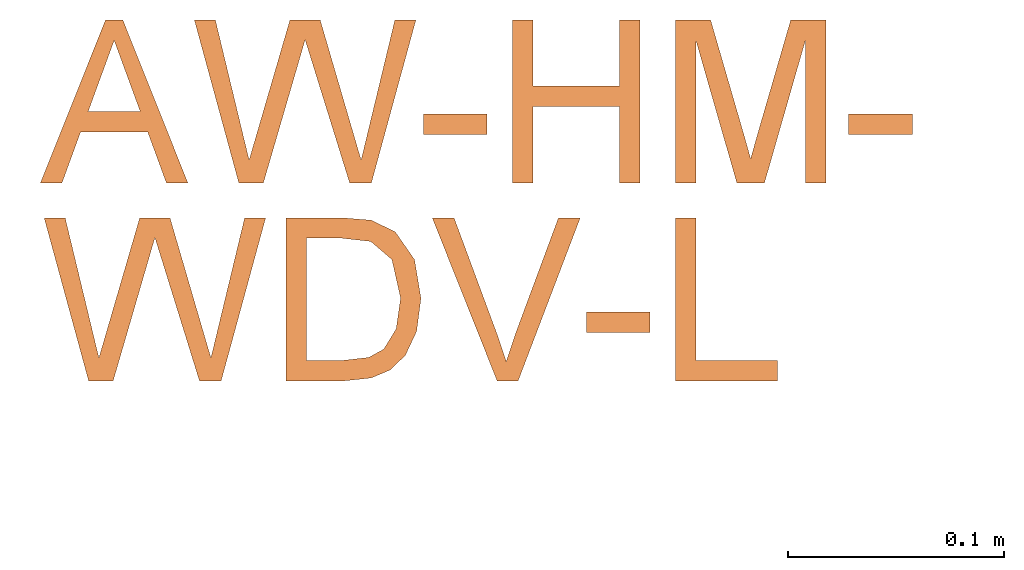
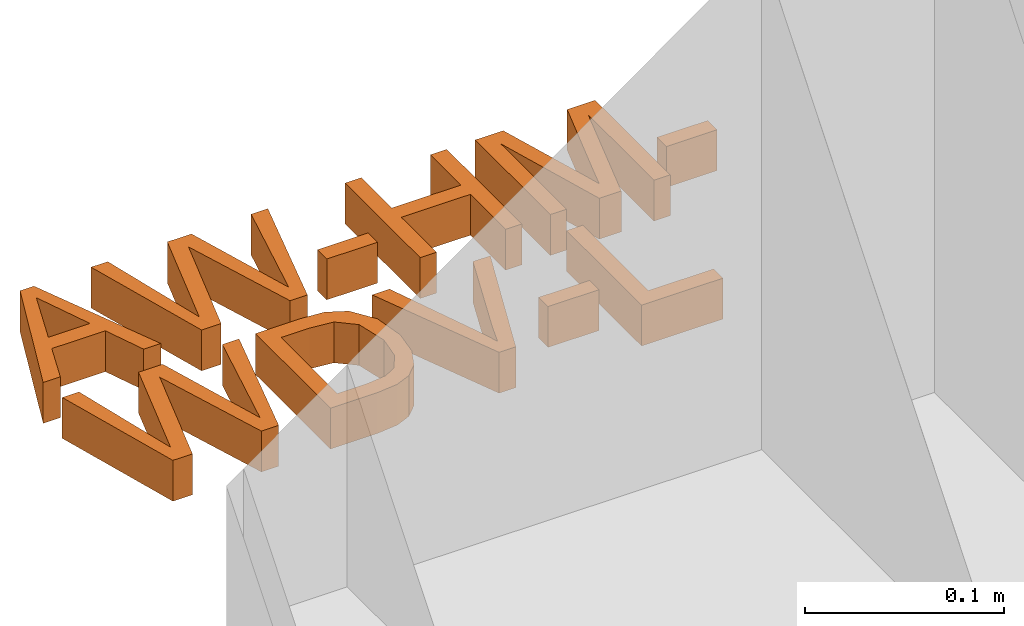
# Not in any storey, part 2 of 2: 1 proxy.
"""IFC4 model written with IfcOpenShell, lengths in metres."""

import ifcopenshell
import ifcopenshell.guid

model = None  # the IFC model being written
_history = None  # IfcOwnerHistory: only IFC2X3 demands one
_inside = {}  # id of a spatial element -> (the spatial element, [elements in it])
_under = {}  # id of a project, library or spatial element -> (it, [spatial elements below it])
_declared = {}  # id of a project -> (the project, [libraries it declares])
_typed = {}  # id of a type object -> (the type object, [elements of that type])
_made_of = {}  # id of a material, layer set ... -> (it, [elements and type objects made of it])


def new_model(schema):
    """Start an empty IFC model of exactly this schema.

    Asked for "IFC4X3", IfcOpenShell would pick the latest addendum, in which some entities
    have other attributes; the version numbers below select the first issue.
    IFC2X3 requires an IfcOwnerHistory on every rooted entity: one is made here for all.
    """
    global model, _history
    if schema == "IFC4X3":
        model = ifcopenshell.file(schema_version=(4, 3, 0, 0))
    else:
        model = ifcopenshell.file(schema=schema)
    _inside.clear()
    _under.clear()
    _declared.clear()
    _typed.clear()
    _made_of.clear()
    _history = None
    if model.schema == "IFC2X3":
        org = make("IfcOrganization", Name="unknown")
        user = make(
            "IfcPersonAndOrganization",
            ThePerson=make("IfcPerson", FamilyName="unknown"),
            TheOrganization=org,
        )
        app = make(
            "IfcApplication",
            ApplicationDeveloper=org,
            Version="unknown",
            ApplicationFullName="unknown",
            ApplicationIdentifier="unknown",
        )
        _history = make(
            "IfcOwnerHistory",
            OwningUser=user,
            OwningApplication=app,
            ChangeAction="ADDED",
            CreationDate=0,
        )
    return model


def make(cls, **values):
    """One entity of the class cls with the attributes given. An attribute that is None is left unset."""
    return model.create_entity(
        cls, **{name: value for name, value in values.items() if value is not None}
    )


def entity(cls, *values):
    """Any entity or typed value of the class cls, its attributes in the order of the schema. None: left unset."""
    e = model.create_entity(cls)
    for i, value in enumerate(values):
        if value is not None:
            e[i] = value
    return e


def rooted(cls, **values):
    """An entity with a GlobalId (a new one), such as an element, a storey or a relation."""
    return make(cls, GlobalId=ifcopenshell.guid.new(), OwnerHistory=_history, **values)


def si_unit(unit_type, name, prefix=None):
    """IfcSIUnit, for example si_unit("LENGTHUNIT", "METRE", prefix="MILLI")."""
    return make("IfcSIUnit", UnitType=unit_type, Prefix=prefix, Name=name)


def converted_unit(unit_type, name, factor, base, dimensions=None, offset=None):
    """IfcConversionBasedUnit, such as the inch: factor (a typed value) times the base unit."""
    return make(
        "IfcConversionBasedUnit"
        if offset is None
        else "IfcConversionBasedUnitWithOffset",
        ConversionOffset=offset,
        Dimensions=None
        if dimensions is None
        else entity("IfcDimensionalExponents", *dimensions),
        UnitType=unit_type,
        Name=name,
        ConversionFactor=make(
            "IfcMeasureWithUnit", ValueComponent=factor, UnitComponent=base
        ),
    )


def derived_unit(unit_type, elements):
    """IfcDerivedUnit: a product of units, each with its exponent."""
    return make(
        "IfcDerivedUnit",
        Elements=[
            make("IfcDerivedUnitElement", Unit=unit, Exponent=power)
            for unit, power in elements
        ],
        UnitType=unit_type,
    )


def assignment(units):
    """IfcUnitAssignment: the units of a project."""
    return None if units is None else make("IfcUnitAssignment", Units=units)


def point(xyz):
    """IfcCartesianPoint."""
    return None if xyz is None else make("IfcCartesianPoint", Coordinates=xyz)


def direction(xyz):
    """IfcDirection."""
    return None if xyz is None else make("IfcDirection", DirectionRatios=xyz)


def frame(location, z_axis=None, x_axis=None):
    """IfcAxis2Placement3D, a coordinate frame: its origin and axes. An axis left out is left unset."""
    return make(
        "IfcAxis2Placement3D",
        Location=point(location),
        Axis=direction(z_axis),
        RefDirection=direction(x_axis),
    )


def origin():
    """The frame at (0, 0, 0) with its axes left unset."""
    return frame((0.0, 0.0, 0.0))


def place(relative_to, where):
    """IfcLocalPlacement: puts the frame where relative to a parent placement (None: the world)."""
    return make(
        "IfcLocalPlacement", PlacementRelTo=relative_to, RelativePlacement=where
    )


def context(
    kind, dimensions, precision=None, world=None, true_north=None, identifier=None
):
    """IfcGeometricRepresentationContext, for example the 3D "Model" context."""
    return make(
        "IfcGeometricRepresentationContext",
        ContextIdentifier=identifier,
        ContextType=kind,
        CoordinateSpaceDimension=dimensions,
        Precision=precision,
        WorldCoordinateSystem=world,
        TrueNorth=true_north,
    )


def subcontext(parent, identifier, kind, view, scale=None):
    """IfcGeometricRepresentationSubContext, for example "Body" below "Model"."""
    return make(
        "IfcGeometricRepresentationSubContext",
        ContextIdentifier=identifier,
        ContextType=kind,
        ParentContext=parent,
        TargetScale=scale,
        TargetView=view,
    )


def project(units=None, contexts=None):
    """IfcProject with its units and contexts."""
    return rooted(
        "IfcProject",
        Name="project",
        RepresentationContexts=contexts,
        UnitsInContext=assignment(units),
    )


def spatial(cls, under=None, at=None, **own):
    """A site, building, storey or space (cls), placed at a placement, below another one or the project."""
    s = rooted(cls, ObjectPlacement=at, **own)
    if under is not None:
        _under.setdefault(under.id(), (under, []))[1].append(s)
    return s


def point_list(points):
    """IfcCartesianPointList2D or 3D."""
    cls = (
        "IfcCartesianPointList2D" if len(points[0]) == 2 else "IfcCartesianPointList3D"
    )
    return make(cls, CoordList=points)


def indexed_curve(points, segments=None, self_intersect=None):
    """IfcIndexedPolyCurve: lines and arcs through numbered points (the first is 1)."""
    return make(
        "IfcIndexedPolyCurve",
        Points=point_list(points),
        Segments=segments,
        SelfIntersect=self_intersect,
    )


def outline(outer, holes=None, kind="AREA"):
    """IfcArbitraryClosedProfileDef: a profile drawn as a closed curve; with holes, ...WithVoids."""
    if holes is None:
        return make("IfcArbitraryClosedProfileDef", ProfileType=kind, OuterCurve=outer)
    return make(
        "IfcArbitraryProfileDefWithVoids",
        ProfileType=kind,
        OuterCurve=outer,
        InnerCurves=holes,
    )


def extrude(swept, where, along, depth):
    """IfcExtrudedAreaSolid: the profile swept, set in the frame where, extruded along a direction by depth."""
    return make(
        "IfcExtrudedAreaSolid",
        SweptArea=swept,
        Position=where,
        ExtrudedDirection=direction(along),
        Depth=depth,
    )


def shape(context_of_items, identifier, shape_type, items):
    """IfcShapeRepresentation: the items that make up one representation, for example the "Body"."""
    return make(
        "IfcShapeRepresentation",
        ContextOfItems=context_of_items,
        RepresentationIdentifier=identifier,
        RepresentationType=shape_type,
        Items=items,
    )


def made_of(thing, what):
    """Note that an element or type object is made of a material, layer set ...; save() writes the relation."""
    if what is not None:
        _made_of.setdefault(what.id(), (what, []))[1].append(thing)
    return thing


def type_object(cls, material=None, **own):
    """A type object (cls), such as IfcWallType, which elements share."""
    return made_of(rooted(cls, **own), material)


def element(
    cls,
    number,
    at=None,
    inside=None,
    cuts=None,
    type_object=None,
    material=None,
    context=None,
    identifier="Body",
    shape_type=None,
    held_by="IfcProductDefinitionShape",
    body=None,
    shapes=None,
    **own,
):
    """One element of the class cls, such as IfcWall. Its Tag is "e" and its number.

    at: its placement. inside: the storey or other place that contains it. cuts: it is an
    opening in that element (IfcRelVoidsElement). A single representation is given by context,
    identifier, shape_type and body (its items); several are given by shapes. held_by: the class
    of the entity that holds the representations. save() writes the other relations.
    """
    e = rooted(cls, Tag="e%d" % number, ObjectPlacement=at, **own)
    if body is not None:
        shapes = [shape(context, identifier, shape_type, body)]
    if shapes is not None:
        e.Representation = make(held_by, Representations=shapes)
    if inside is not None:
        _inside.setdefault(inside.id(), (inside, []))[1].append(e)
    if cuts is not None:
        rooted(
            "IfcRelVoidsElement", RelatingBuildingElement=cuts, RelatedOpeningElement=e
        )
    if type_object is not None:
        _typed.setdefault(type_object.id(), (type_object, []))[1].append(e)
    return made_of(e, material)


def aggregate(whole, parts):
    """IfcRelAggregates: a whole, such as a stair, and the parts it consists of."""
    return rooted("IfcRelAggregates", RelatingObject=whole, RelatedObjects=parts)


def save(model, path):
    """Write the relations noted so far, then the file.

    IfcRelAggregates (storeys below a building ...), IfcRelContainedInSpatialStructure (elements
    in a storey), IfcRelDefinesByType, IfcRelAssociatesMaterial and IfcRelDeclares: one each for
    every whole, place, type object, material and project.
    """
    for whole, parts in _under.values():
        aggregate(whole, parts)
    for where, things in _inside.values():
        rooted(
            "IfcRelContainedInSpatialStructure",
            RelatedElements=things,
            RelatingStructure=where,
        )
    for kind, things in _typed.values():
        rooted("IfcRelDefinesByType", RelatedObjects=things, RelatingType=kind)
    for what, things in _made_of.values():
        rooted("IfcRelAssociatesMaterial", RelatedObjects=things, RelatingMaterial=what)
    for by, libraries in _declared.values():
        rooted("IfcRelDeclares", RelatingContext=by, RelatedDefinitions=libraries)
    model.write(path)


model = new_model("IFC4")

# Units and contexts
model_context = context("Model", 3, precision=1e-05, world=origin(), true_north=direction((6.123031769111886e-17, 1.0)))
body_context = subcontext(model_context, "Body", "Model", "MODEL_VIEW")
ifc_project = project(units=[si_unit("LENGTHUNIT", "METRE"), si_unit("AREAUNIT", "SQUARE_METRE"), si_unit("VOLUMEUNIT", "CUBIC_METRE"), converted_unit("PLANEANGLEUNIT", "DEGREE", entity("IfcRatioMeasure", 0.017453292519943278), si_unit("PLANEANGLEUNIT", "RADIAN"), dimensions=[0, 0, 0, 0, 0, 0, 0]), si_unit("MASSUNIT", "GRAM", prefix="KILO"), derived_unit("MASSDENSITYUNIT", [(si_unit("MASSUNIT", "GRAM", prefix="KILO"), 1), (si_unit("LENGTHUNIT", "METRE"), -3)]), derived_unit("IONCONCENTRATIONUNIT", [(si_unit("MASSUNIT", "GRAM", prefix="KILO"), 1), (si_unit("LENGTHUNIT", "METRE"), -3)]), derived_unit("MOMENTOFINERTIAUNIT", [(si_unit("LENGTHUNIT", "METRE"), 4)]), si_unit("TIMEUNIT", "SECOND"), si_unit("FREQUENCYUNIT", "HERTZ"), si_unit("THERMODYNAMICTEMPERATUREUNIT", "DEGREE_CELSIUS"), derived_unit("THERMALTRANSMITTANCEUNIT", [(si_unit("MASSUNIT", "GRAM", prefix="KILO"), 1), (si_unit("THERMODYNAMICTEMPERATUREUNIT", "KELVIN"), -1), (si_unit("TIMEUNIT", "SECOND"), -3)]), derived_unit("THERMALCONDUCTANCEUNIT", [(si_unit("MASSUNIT", "GRAM", prefix="KILO"), 1), (si_unit("THERMODYNAMICTEMPERATUREUNIT", "KELVIN"), -1), (si_unit("TIMEUNIT", "SECOND"), -3), (si_unit("LENGTHUNIT", "METRE"), 1)]), derived_unit("VOLUMETRICFLOWRATEUNIT", [(si_unit("LENGTHUNIT", "METRE"), 3), (si_unit("TIMEUNIT", "SECOND"), -1)]), derived_unit("MASSFLOWRATEUNIT", [(si_unit("MASSUNIT", "GRAM", prefix="KILO"), 1), (si_unit("TIMEUNIT", "SECOND"), -1)]), derived_unit("ROTATIONALFREQUENCYUNIT", [(si_unit("TIMEUNIT", "SECOND"), -1)]), si_unit("ELECTRICCURRENTUNIT", "AMPERE"), si_unit("ELECTRICVOLTAGEUNIT", "VOLT"), si_unit("POWERUNIT", "WATT"), si_unit("FORCEUNIT", "NEWTON", prefix="KILO"), si_unit("ILLUMINANCEUNIT", "LUX"), si_unit("LUMINOUSFLUXUNIT", "LUMEN"), si_unit("LUMINOUSINTENSITYUNIT", "CANDELA"), derived_unit("USERDEFINED", [(si_unit("MASSUNIT", "GRAM", prefix="KILO"), -1), (si_unit("LENGTHUNIT", "METRE"), -2), (si_unit("TIMEUNIT", "SECOND"), 3), (si_unit("LUMINOUSFLUXUNIT", "LUMEN"), 1)]), derived_unit("USERDEFINED", [(si_unit("MASSUNIT", "GRAM", prefix="KILO"), 1), (si_unit("TIMEUNIT", "SECOND"), -3), (si_unit("LENGTHUNIT", "METRE"), 3), (si_unit("ELECTRICCURRENTUNIT", "AMPERE"), -2)]), derived_unit("SOUNDPOWERUNIT", [(si_unit("MASSUNIT", "GRAM", prefix="KILO"), 1), (si_unit("TIMEUNIT", "SECOND"), -3), (si_unit("LENGTHUNIT", "METRE"), 2)]), derived_unit("SOUNDPRESSUREUNIT", [(si_unit("MASSUNIT", "GRAM", prefix="KILO"), 1), (si_unit("LENGTHUNIT", "METRE"), -1), (si_unit("TIMEUNIT", "SECOND"), -2)]), derived_unit("LINEARVELOCITYUNIT", [(si_unit("LENGTHUNIT", "METRE"), 1), (si_unit("TIMEUNIT", "SECOND"), -1)]), si_unit("PRESSUREUNIT", "PASCAL"), derived_unit("USERDEFINED", [(si_unit("MASSUNIT", "GRAM", prefix="KILO"), 1), (si_unit("LENGTHUNIT", "METRE"), -2), (si_unit("TIMEUNIT", "SECOND"), -2)]), derived_unit("LINEARFORCEUNIT", [(si_unit("MASSUNIT", "GRAM", prefix="KILO"), 1), (si_unit("TIMEUNIT", "SECOND"), -2)]), derived_unit("PLANARFORCEUNIT", [(si_unit("MASSUNIT", "GRAM", prefix="KILO"), 1), (si_unit("LENGTHUNIT", "METRE"), -1), (si_unit("TIMEUNIT", "SECOND"), -2)]), derived_unit("SPECIFICHEATCAPACITYUNIT", [(si_unit("THERMODYNAMICTEMPERATUREUNIT", "KELVIN"), -1), (si_unit("LENGTHUNIT", "METRE"), 2), (si_unit("TIMEUNIT", "SECOND"), -2)]), derived_unit("HEATINGVALUEUNIT", [(si_unit("LENGTHUNIT", "METRE"), 2), (si_unit("TIMEUNIT", "SECOND"), -2)]), derived_unit("VAPORPERMEABILITYUNIT", [(si_unit("LENGTHUNIT", "METRE"), -1), (si_unit("TIMEUNIT", "SECOND"), 1)]), derived_unit("DYNAMICVISCOSITYUNIT", [(si_unit("MASSUNIT", "GRAM", prefix="KILO"), 1), (si_unit("TIMEUNIT", "SECOND"), -1), (si_unit("LENGTHUNIT", "METRE"), -1)]), derived_unit("THERMALEXPANSIONCOEFFICIENTUNIT", [(si_unit("THERMODYNAMICTEMPERATUREUNIT", "KELVIN"), -1)]), derived_unit("MODULUSOFELASTICITYUNIT", [(si_unit("MASSUNIT", "GRAM", prefix="KILO"), 1), (si_unit("LENGTHUNIT", "METRE"), -1), (si_unit("TIMEUNIT", "SECOND"), -2)]), derived_unit("ISOTHERMALMOISTURECAPACITYUNIT", [(si_unit("LENGTHUNIT", "METRE"), 3), (si_unit("MASSUNIT", "GRAM", prefix="KILO"), -1)]), derived_unit("MOISTUREDIFFUSIVITYUNIT", [(si_unit("TIMEUNIT", "SECOND"), -1), (si_unit("LENGTHUNIT", "METRE"), 2)])], contexts=[model_context])

# Site
site_placement = place(None, origin())
site = spatial("IfcSite", under=ifc_project, at=site_placement, Name="Default", CompositionType="ELEMENT")

# Proxy
building_element_proxy_type = type_object("IfcBuildingElementProxyType", Name="Modelltext:075mm Arial", PredefinedType="NOTDEFINED")
proxy_placement = place(site_placement, origin())
element("IfcBuildingElementProxy", 1, at=proxy_placement, inside=site, type_object=building_element_proxy_type, Name="Modelltext:075mm Arial", ObjectType="Modelltext:075mm Arial", PredefinedType="NOTDEFINED", context=body_context, shape_type="SweptSolid", body=[
    extrude(outline(indexed_curve([(-0.03408196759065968, -0.024721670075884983), (-0.024130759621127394, -0.024721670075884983), (-0.015522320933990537, -0.0011772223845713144), (0.015508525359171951, -0.0011772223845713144), (0.024135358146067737, -0.024721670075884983), (0.03408656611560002, -0.024721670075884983), (0.0040122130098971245, 0.05062056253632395), (-0.0040076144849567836, 0.05062056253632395), (-0.03408196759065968, -0.024721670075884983)], self_intersect=False), holes=[indexed_curve([(-0.012064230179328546, 0.008240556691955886), (-0.004688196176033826, 0.028382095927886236), (2.299262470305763e-06, 0.041202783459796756), (0.005281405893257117, 0.026763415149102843), (0.012068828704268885, 0.008240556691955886), (-0.012064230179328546, 0.008240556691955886)], self_intersect=False)]), frame((1.6878762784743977, 47.88026199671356, 0.0)), (0.0, 0.0, 1.0), 0.025),
    extrude(outline(indexed_curve([(-0.030486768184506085, -0.04038957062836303), (-0.019119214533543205, -0.04038957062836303), (-0.002656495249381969, 0.016080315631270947), (0.0001761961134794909, 0.025847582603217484), (0.002696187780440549, 0.017735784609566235), (0.020759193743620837, -0.04038957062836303), (0.030820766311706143, -0.04038957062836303), (0.05138536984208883, 0.03495266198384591), (0.04167328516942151, 0.03495266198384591), (0.02964354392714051, -0.015005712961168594), (0.0260750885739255, -0.029849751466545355), (0.018000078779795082, -0.0022218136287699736), (0.007147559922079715, 0.03495266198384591), (-0.006850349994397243, 0.03495266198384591), (-0.021786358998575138, -0.016330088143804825), (-0.02572269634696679, -0.029849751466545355), (-0.02940151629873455, -0.014564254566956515), (-0.0413208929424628, 0.03495266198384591), (-0.05103297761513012, 0.03495266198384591), (-0.030486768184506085, -0.04038957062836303)], self_intersect=False)), frame((1.7759940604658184, 47.89592989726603, 0.0)), (0.0, 0.0, 1.0), 0.025),
    extrude(outline(indexed_curve([(-0.014715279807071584, -0.004708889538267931), (0.014715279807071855, -0.004708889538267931), (0.014715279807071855, 0.004708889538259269), (-0.014715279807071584, 0.004708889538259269), (-0.014715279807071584, -0.004708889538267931)], self_intersect=False)), frame((1.845626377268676, 47.88261644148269, 0.0)), (0.0, 0.0, 1.0), 0.025),
    extrude(outline(indexed_curve([(-0.029430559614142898, -0.038455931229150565), (-0.020012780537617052, -0.038455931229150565), (-0.020012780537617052, -0.003139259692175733), (0.020012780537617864, -0.003139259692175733), (0.020012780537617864, -0.038455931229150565), (0.02943055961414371, -0.038455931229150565), (0.02943055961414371, 0.036886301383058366), (0.020012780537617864, 0.036886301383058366), (0.020012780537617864, 0.006278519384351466), (-0.020012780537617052, 0.006278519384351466), (-0.020012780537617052, 0.036886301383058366), (-0.029430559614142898, 0.036886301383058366), (-0.029430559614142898, -0.038455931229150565)], self_intersect=False)), frame((1.9015444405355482, 47.89399625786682, 0.0)), (0.0, 0.0, 1.0), 0.025),
    extrude(outline(indexed_curve([(-0.034745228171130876, -0.032650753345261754), (-0.02532744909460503, -0.032650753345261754), (-0.02532744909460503, 0.03327370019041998), (-0.006399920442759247, -0.032650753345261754), (0.0063655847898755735, -0.032650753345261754), (0.02529311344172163, 0.03327370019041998), (0.02529311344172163, -0.032650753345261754), (0.03471089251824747, -0.032650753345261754), (0.03471089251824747, 0.042691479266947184), (0.01850569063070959, 0.042691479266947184), (0.0033489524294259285, -0.009492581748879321), (-1.7167826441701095e-05, -0.021503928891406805), (-0.003125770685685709, -0.010412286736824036), (-0.01854002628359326, 0.042691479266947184), (-0.034745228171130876, 0.042691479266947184), (-0.034745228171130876, -0.032650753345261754)], self_intersect=False)), frame((1.9822013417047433, 47.88819107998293, 0.0)), (0.0, 0.0, 1.0), 0.025),
    extrude(outline(indexed_curve([(-0.014715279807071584, -0.004708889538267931), (0.014715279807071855, -0.004708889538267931), (0.014715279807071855, 0.004708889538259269), (-0.014715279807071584, 0.004708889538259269), (-0.014715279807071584, -0.004708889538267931)], self_intersect=False)), frame((2.042222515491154, 47.88261644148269, 0.0)), (0.0, 0.0, 1.0), 0.025),
    extrude(outline(indexed_curve([(-0.030486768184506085, -0.0403895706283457), (-0.019119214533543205, -0.0403895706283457), (-0.002656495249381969, 0.016080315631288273), (0.0001761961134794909, 0.02584758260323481), (0.002696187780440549, 0.01773578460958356), (0.020759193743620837, -0.0403895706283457), (0.030820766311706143, -0.0403895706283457), (0.05138536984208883, 0.03495266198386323), (0.04167328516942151, 0.03495266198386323), (0.02964354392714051, -0.015005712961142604), (0.0260750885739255, -0.02984975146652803), (0.018000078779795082, -0.0022218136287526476), (0.007147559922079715, 0.03495266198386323), (-0.006850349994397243, 0.03495266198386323), (-0.021786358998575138, -0.016330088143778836), (-0.02572269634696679, -0.02984975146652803), (-0.02940151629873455, -0.014564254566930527), (-0.0413208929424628, 0.03495266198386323), (-0.05103297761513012, 0.03495266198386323), (-0.030486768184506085, -0.0403895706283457)], self_intersect=False)), frame((1.7065379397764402, 47.804448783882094, 0.0)), (0.0, 0.0, 1.0), 0.025),
    extrude(outline(indexed_curve([(-0.039028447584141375, -0.03575046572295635), (-0.011786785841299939, -0.03575046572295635), (0.00032572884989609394, -0.03446287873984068), (0.009329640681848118, -0.030682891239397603), (0.01620903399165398, -0.023849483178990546), (0.021359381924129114, -0.012877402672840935), (0.02336433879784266, 0.0023253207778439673), (0.020402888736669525, 0.02024117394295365), (0.011481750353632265, 0.033117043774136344), (0.0004085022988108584, 0.03850651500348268), (-0.013037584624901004, 0.03959176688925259), (-0.039028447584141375, 0.03959176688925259), (-0.039028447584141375, -0.03575046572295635)], self_intersect=False), holes=[indexed_curve([(-0.02961066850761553, -0.026332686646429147), (-0.02961066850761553, 0.030173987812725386), (-0.013203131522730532, 0.030173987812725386), (0.00015098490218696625, 0.028665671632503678), (0.009927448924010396, 0.02031475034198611), (0.013946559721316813, 0.0024724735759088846), (0.011895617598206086, -0.011773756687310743), (0.0061658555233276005, -0.02112715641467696), (-0.0008239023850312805, -0.024971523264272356), (-0.01294561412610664, -0.026332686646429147), (-0.02961066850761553, -0.026332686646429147)], self_intersect=False)]), frame((1.8063695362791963, 47.79980967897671, 0.0)), (0.0, 0.0, 1.0), 0.025),
    extrude(outline(indexed_curve([(-0.004365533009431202, -0.03914673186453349), (0.005364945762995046, -0.03914673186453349), (0.034078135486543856, 0.03619550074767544), (0.023998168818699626, 0.03619550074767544), (0.0038750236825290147, -0.018085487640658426), (-0.00013489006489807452, -0.03031756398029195), (-0.004199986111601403, -0.018085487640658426), (-0.024267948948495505, 0.03619550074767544), (-0.034347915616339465, 0.03619550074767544), (-0.004365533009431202, -0.03914673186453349)], self_intersect=False)), frame((1.8693057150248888, 47.803205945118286, 0.0)), (0.0, 0.0, 1.0), 0.025),
    extrude(outline(indexed_curve([(-0.014715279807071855, -0.004708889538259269), (0.014715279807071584, -0.004708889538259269), (0.014715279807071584, 0.004708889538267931), (-0.014715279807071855, 0.004708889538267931), (-0.014715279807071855, -0.004708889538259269)], self_intersect=False)), frame((1.9209686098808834, 47.79113532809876, 0.0)), (0.0, 0.0, 1.0), 0.025),
    extrude(outline(indexed_curve([(-0.01883555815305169, -0.0282533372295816), (0.028253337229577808, -0.0282533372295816), (0.028253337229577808, -0.0188355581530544), (-0.009417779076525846, -0.0188355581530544), (-0.009417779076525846, 0.04708889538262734), (-0.01883555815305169, 0.04708889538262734), (-0.01883555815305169, -0.0282533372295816)], self_intersect=False)), frame((1.966291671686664, 47.79231255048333, 0.0)), (0.0, 0.0, 1.0), 0.025),
])

save(model, "model.ifc")
